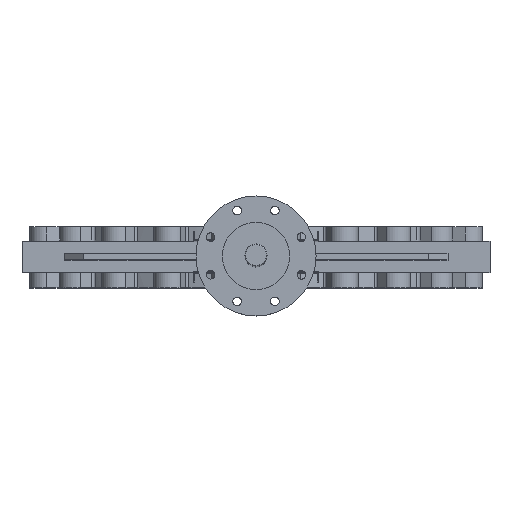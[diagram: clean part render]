
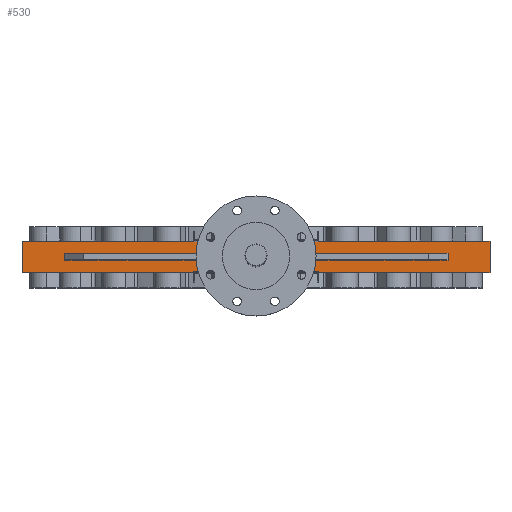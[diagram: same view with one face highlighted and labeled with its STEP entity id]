
A CAD part, top view. The second image highlights one B-rep face of the part: STEP entity #530.
In plain terms, the highlighted planar face has unit normal (0, 0, 1).
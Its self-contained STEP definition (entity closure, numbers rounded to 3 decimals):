
#530=ADVANCED_FACE('',(#3811,#3813),#3815,.T.);
#3811=FACE_BOUND('',#3812,.T.);
#3812=EDGE_LOOP('',(#6589,#6590,#6591,#6592,#6593,#6594,#6595,#6596,#6597,#6598,
#6599,#6600));
#3813=FACE_BOUND('',#3814,.T.);
#3814=EDGE_LOOP('',(#6601,#6602,#6603,#6604));
#3815=PLANE('',#3816);
#3816=AXIS2_PLACEMENT_3D('',#3817,#3818,#3819);
#3817=CARTESIAN_POINT('',(-487.5,-32.5,587.5));
#3818=DIRECTION('',(0.,0.,1.));
#3819=DIRECTION('',(1.,0.,0.));
#6589=ORIENTED_EDGE('',*,*,#8345,.T.);
#6590=ORIENTED_EDGE('',*,*,#8388,.T.);
#6591=ORIENTED_EDGE('',*,*,#8387,.F.);
#6592=ORIENTED_EDGE('',*,*,#8384,.F.);
#6593=ORIENTED_EDGE('',*,*,#8382,.T.);
#6594=ORIENTED_EDGE('',*,*,#8367,.T.);
#6595=ORIENTED_EDGE('',*,*,#8352,.T.);
#6596=ORIENTED_EDGE('',*,*,#8380,.T.);
#6597=ORIENTED_EDGE('',*,*,#8379,.T.);
#6598=ORIENTED_EDGE('',*,*,#8377,.T.);
#6599=ORIENTED_EDGE('',*,*,#8374,.F.);
#6600=ORIENTED_EDGE('',*,*,#8372,.T.);
#6601=ORIENTED_EDGE('',*,*,#8399,.T.);
#6602=ORIENTED_EDGE('',*,*,#8400,.T.);
#6603=ORIENTED_EDGE('',*,*,#8401,.T.);
#6604=ORIENTED_EDGE('',*,*,#8402,.T.);
#8345=EDGE_CURVE('',#9401,#9402,#9403,.T.);
#8352=EDGE_CURVE('',#9412,#9413,#9414,.F.);
#8367=EDGE_CURVE('',#9440,#9412,#9441,.F.);
#8372=EDGE_CURVE('',#9446,#9401,#9447,.T.);
#8374=EDGE_CURVE('',#9446,#9449,#9450,.T.);
#8377=EDGE_CURVE('',#9452,#9449,#9454,.T.);
#8379=EDGE_CURVE('',#9455,#9452,#9457,.T.);
#8380=EDGE_CURVE('',#9413,#9455,#9458,.F.);
#8382=EDGE_CURVE('',#9460,#9440,#9461,.T.);
#8384=EDGE_CURVE('',#9460,#9463,#9464,.T.);
#8387=EDGE_CURVE('',#9463,#9466,#9468,.T.);
#8388=EDGE_CURVE('',#9402,#9466,#9469,.T.);
#8399=EDGE_CURVE('',#9484,#9485,#9486,.T.);
#8400=EDGE_CURVE('',#9485,#9487,#9488,.T.);
#8401=EDGE_CURVE('',#9487,#9489,#9490,.F.);
#8402=EDGE_CURVE('',#9489,#9484,#9491,.F.);
#9401=VERTEX_POINT('',#11297);
#9402=VERTEX_POINT('',#11298);
#9403=LINE('',#11299,#11300);
#9412=VERTEX_POINT('',#11323);
#9413=VERTEX_POINT('',#11324);
#9414=LINE('',#11325,#11326);
#9440=VERTEX_POINT('',#11390);
#9441=LINE('',#11391,#11392);
#9446=VERTEX_POINT('',#11406);
#9447=LINE('',#11407,#11408);
#9449=VERTEX_POINT('',#11413);
#9450=LINE('',#11414,#11415);
#9452=VERTEX_POINT('',#11420);
#9454=LINE('',#11424,#11425);
#9455=VERTEX_POINT('',#11427);
#9457=LINE('',#11431,#11432);
#9458=LINE('',#11434,#11435);
#9460=VERTEX_POINT('',#11440);
#9461=LINE('',#11441,#11442);
#9463=VERTEX_POINT('',#11447);
#9464=LINE('',#11448,#11449);
#9466=VERTEX_POINT('',#11454);
#9468=LINE('',#11458,#11459);
#9469=LINE('',#11461,#11462);
#9484=VERTEX_POINT('',#11498);
#9485=VERTEX_POINT('',#11499);
#9486=LINE('',#11500,#11501);
#9487=VERTEX_POINT('',#11503);
#9488=LINE('',#11504,#11505);
#9489=VERTEX_POINT('',#11507);
#9490=LINE('',#11508,#11509);
#9491=LINE('',#11511,#11512);
#11297=CARTESIAN_POINT('',(130.,32.,587.5));
#11298=CARTESIAN_POINT('',(-130.,32.,587.5));
#11299=CARTESIAN_POINT('',(130.,32.,587.5));
#11300=VECTOR('',#11301,1.);
#11301=DIRECTION('',(-1.,0.,0.));
#11323=CARTESIAN_POINT('',(-130.,-32.,587.5));
#11324=CARTESIAN_POINT('',(130.,-32.,587.5));
#11325=CARTESIAN_POINT('',(130.,-32.,587.5));
#11326=VECTOR('',#11327,1.);
#11327=DIRECTION('',(-1.,0.,0.));
#11390=CARTESIAN_POINT('',(-130.,-32.5,587.5));
#11391=CARTESIAN_POINT('',(-130.,-32.,587.5));
#11392=VECTOR('',#11393,1.);
#11393=DIRECTION('',(0.,-1.,0.));
#11406=CARTESIAN_POINT('',(130.,32.5,587.5));
#11407=CARTESIAN_POINT('',(130.,32.5,587.5));
#11408=VECTOR('',#11409,1.);
#11409=DIRECTION('',(0.,-1.,0.));
#11413=CARTESIAN_POINT('',(487.5,32.5,587.5));
#11414=CARTESIAN_POINT('',(130.,32.5,587.5));
#11415=VECTOR('',#11416,1.);
#11416=DIRECTION('',(1.,0.,0.));
#11420=CARTESIAN_POINT('',(487.5,-32.5,587.5));
#11424=CARTESIAN_POINT('',(487.5,-32.5,587.5));
#11425=VECTOR('',#11426,1.);
#11426=DIRECTION('',(0.,1.,0.));
#11427=CARTESIAN_POINT('',(130.,-32.5,587.5));
#11431=CARTESIAN_POINT('',(130.,-32.5,587.5));
#11432=VECTOR('',#11433,1.);
#11433=DIRECTION('',(1.,0.,0.));
#11434=CARTESIAN_POINT('',(130.,-32.5,587.5));
#11435=VECTOR('',#11436,1.);
#11436=DIRECTION('',(0.,1.,0.));
#11440=CARTESIAN_POINT('',(-487.5,-32.5,587.5));
#11441=CARTESIAN_POINT('',(-487.5,-32.5,587.5));
#11442=VECTOR('',#11443,1.);
#11443=DIRECTION('',(1.,0.,0.));
#11447=CARTESIAN_POINT('',(-487.5,32.5,587.5));
#11448=CARTESIAN_POINT('',(-487.5,-32.5,587.5));
#11449=VECTOR('',#11450,1.);
#11450=DIRECTION('',(0.,1.,0.));
#11454=CARTESIAN_POINT('',(-130.,32.5,587.5));
#11458=CARTESIAN_POINT('',(-487.5,32.5,587.5));
#11459=VECTOR('',#11460,1.);
#11460=DIRECTION('',(1.,0.,0.));
#11461=CARTESIAN_POINT('',(-130.,32.,587.5));
#11462=VECTOR('',#11463,1.);
#11463=DIRECTION('',(0.,1.,0.));
#11498=CARTESIAN_POINT('',(145.752,7.,587.5));
#11499=CARTESIAN_POINT('',(145.752,-7.,587.5));
#11500=CARTESIAN_POINT('',(145.752,7.,587.5));
#11501=VECTOR('',#11502,1.);
#11502=DIRECTION('',(0.,-1.,0.));
#11503=CARTESIAN_POINT('',(-145.752,-7.,587.5));
#11504=CARTESIAN_POINT('',(145.752,-7.,587.5));
#11505=VECTOR('',#11506,1.);
#11506=DIRECTION('',(-1.,0.,0.));
#11507=CARTESIAN_POINT('',(-145.752,7.,587.5));
#11508=CARTESIAN_POINT('',(-145.752,7.,587.5));
#11509=VECTOR('',#11510,1.);
#11510=DIRECTION('',(0.,-1.,0.));
#11511=CARTESIAN_POINT('',(145.752,7.,587.5));
#11512=VECTOR('',#11513,1.);
#11513=DIRECTION('',(-1.,0.,0.));
